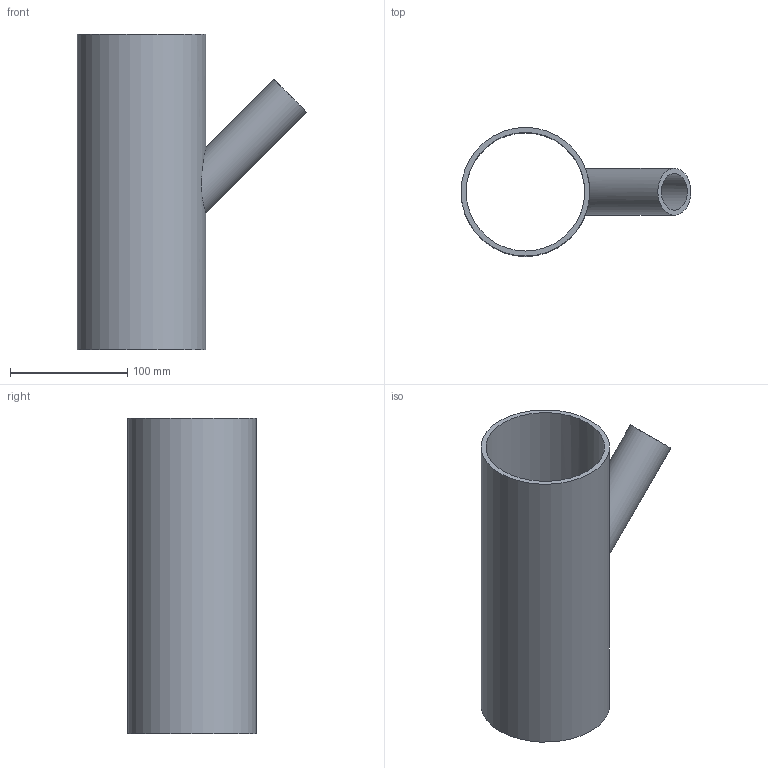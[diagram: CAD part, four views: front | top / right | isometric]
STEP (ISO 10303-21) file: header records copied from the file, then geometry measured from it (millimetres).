
FILE_DESCRIPTION(/* description */ (''),/* implementation_level */ '2;1');
FILE_NAME(/* name */ 'C:\Planerdaten\Export PLA\PRO_101557\stp\367109.stp',/* time_stamp */ '2021-09-30T15:06:10+02:00',/* author */ ('JANAN'),/* organization */ (''),/* preprocessor_version */ 'ST-DEVELOPER v16.13',/* originating_system */ 'Autodesk Inventor 2018',/* authorisation */ '');
FILE_SCHEMA (('AUTOMOTIVE_DESIGN { 1 0 10303 214 3 1 1 }'));
Length unit declared in the file: millimetre
Products named in the file (1): tmp71EF.tmp
Bounding box: 196.42 x 110 x 270 mm (x, y, z)
Volume: 431082.4 mm3; surface area: 203770 mm2
Topology: 1 solids, 1 shells, 7 faces, 17 edges, 12 vertices
Faces by surface type: cylinder 4, plane 3
Full cylindrical faces by diameter (mm): 31.4 x1, 40 x1, 101.4 x1, 110 x1
Entity records: 304 total; most frequent: CARTESIAN_POINT 126, DIRECTION 28, EDGE_LOOP 16, ORIENTED_EDGE 16, AXIS2_PLACEMENT_3D 14, FACE_BOUND 9, VERTEX_POINT 8, EDGE_CURVE 8
